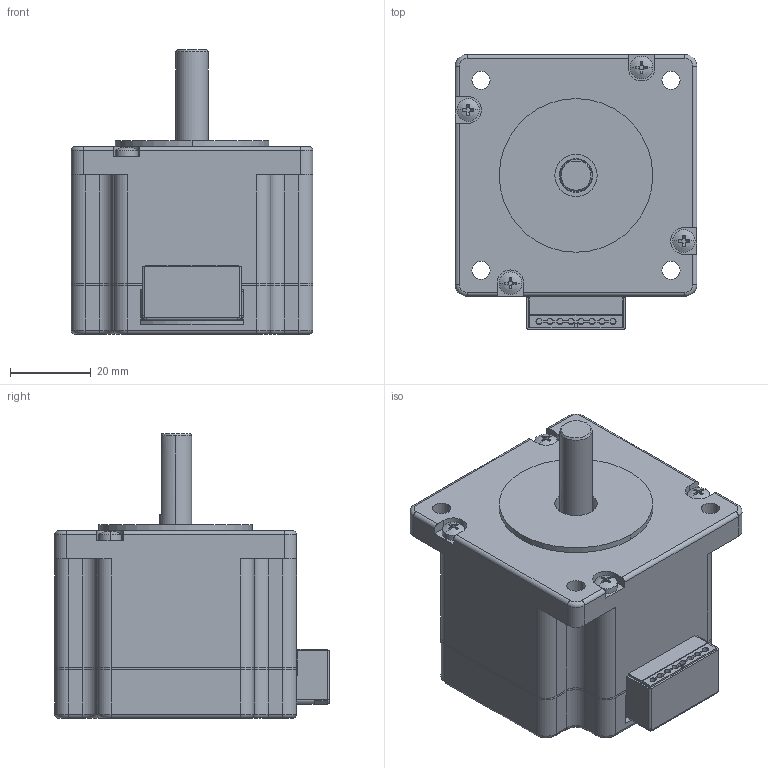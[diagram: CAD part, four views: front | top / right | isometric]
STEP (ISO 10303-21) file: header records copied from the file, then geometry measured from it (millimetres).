
FILE_DESCRIPTION((''),'2;1');
FILE_NAME('3_1_01_060_0676_SW0001','2020-11-27T17:04:10',('guhaibo'),(''),'CREO PARAMETRIC BY PTC INC, 2017110','CREO PARAMETRIC BY PTC INC, 2017110','');
FILE_SCHEMA(('CONFIG_CONTROL_DESIGN'));
Products named in the file (1): 3_1_01_060_0676_SW0001
Bounding box: 60 x 68.15 x 70.5 mm (x, y, z)
Volume: 139568.1 mm3; surface area: 53777.6 mm2
Topology: 1 solids, 3 shells, 2567 faces, 7497 edges, 4928 vertices
Faces by surface type: plane 1705, cylinder 775, torus 46, bspline 30, sphere 8, cone 3
Entity records: 86774 total; most frequent: CARTESIAN_POINT 17109, ORIENTED_EDGE 14994, DIRECTION 14243, EDGE_CURVE 7497, VECTOR 5541, LINE 5541, VERTEX_POINT 4928, AXIS2_PLACEMENT_3D 4351
